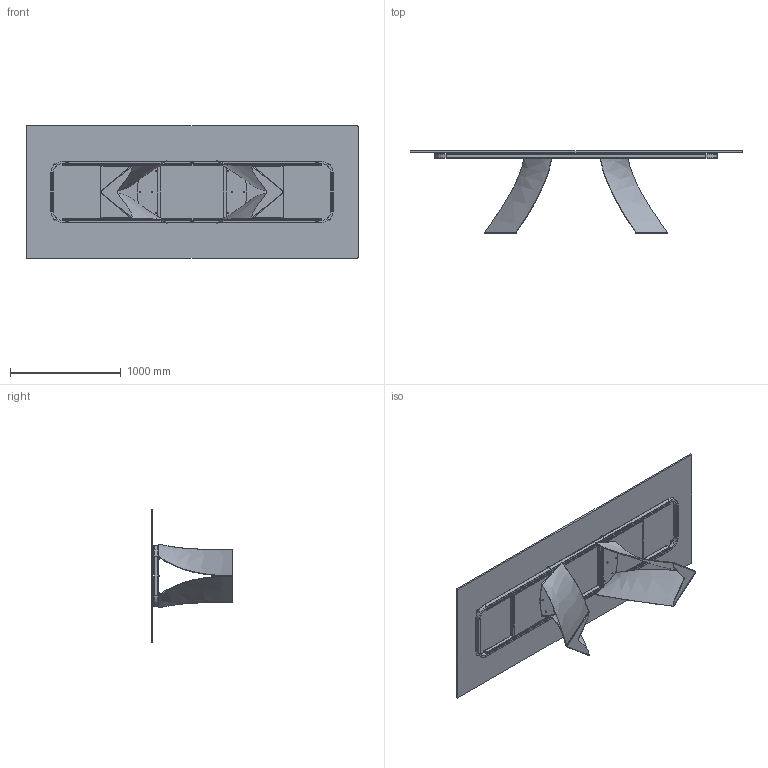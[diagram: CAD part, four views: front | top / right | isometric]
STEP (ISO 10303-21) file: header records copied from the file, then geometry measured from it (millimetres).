
FILE_DESCRIPTION (( 'STEP AP203' ), '1' );
FILE_NAME ('TW24G.STEP', '2024-08-07T12:35:04', ( '' ), ( '' ), 'SwSTEP 2.0', 'SolidWorks 2022', '' );
FILE_SCHEMA (( 'CONFIG_CONTROL_DESIGN' ));
Length unit declared in the file: millimetre
Products named in the file (10): rondella M8_8X16; TW24G; TTAV10-00-TELAIO X TAVOLO TWIST 300 320cm; PIEDINO PLASTICA PER TWIST; 434070-00-PIEDINO TPV GOMMA NERO D. 30x8max18; C2XCRXX-00-Piani Rettangolari Cristallo_24 3000x1200; M8xXXmm_M8x20mm; TWS000000BAS-00-TWIST BASE GREZZA; TTAX03_02-00-VASSOIO IRRIGIDIMENTO TELAIO TWIST 300; TTAX03_01-00-TELAIO UNIVERSALE X TWIST 300 320cm_Default<A macchina>
Assembly tree (43 placements, depth 3):
  TW24G
    C2XCRXX-00-Piani Rettangolari Cristallo_24 3000x1200
    TWS000000BAS-00-TWIST BASE GREZZA  x2
    TTAV10-00-TELAIO X TAVOLO TWIST 300 320cm
      TTAX03_01-00-TELAIO UNIVERSALE X TWIST 300 320cm_Default<A macchina>
      TTAX03_02-00-VASSOIO IRRIGIDIMENTO TELAIO TWIST 300  x2
    M8xXXmm_M8x20mm  x12
    rondella M8_8X16  x12
    434070-00-PIEDINO TPV GOMMA NERO D. 30x8max18  x8
    PIEDINO PLASTICA PER TWIST  x4
Bounding box: 3000 x 740.37 x 1200 mm (x, y, z)
Volume: 67584580.5 mm3; surface area: 13402377.2 mm2
Topology: 67 solids, 67 shells, 1270 faces, 2950 edges, 1806 vertices
Faces by surface type: plane 522, cylinder 342, torus 208, cone 132, bspline 66
Entity records: 22814 total; most frequent: CARTESIAN_POINT 8935, DIRECTION 2553, ORIENTED_EDGE 2426, EDGE_CURVE 1213, AXIS2_PLACEMENT_3D 958, VERTEX_POINT 787, LINE 637, VECTOR 637
